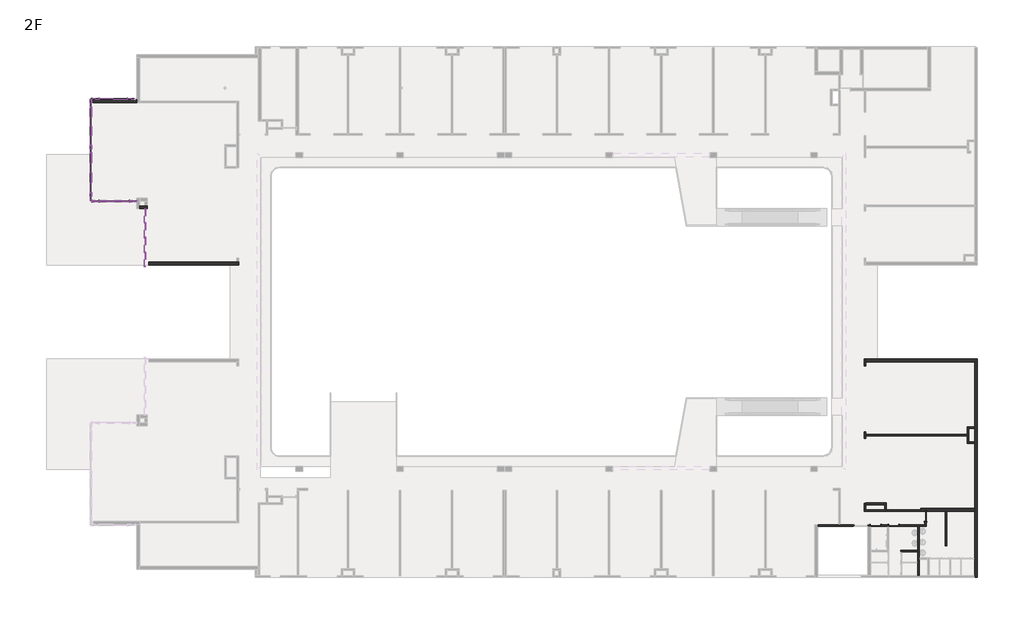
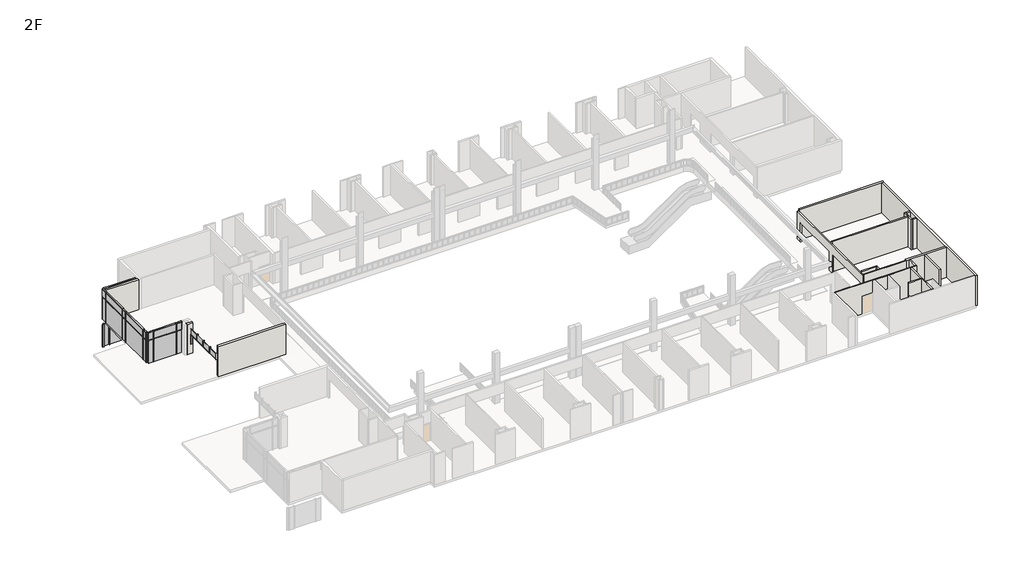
# One storey, part 3 of 6: 47 members, 23 plates, 19 walls, 3 doors.
"""IFC4 building model written with IfcOpenShell, lengths in millimetres."""

from ifc_helpers import new_model, si_unit, frame, origin, place, context, project, spatial, polyline, outline, extrude, faceted_brep, transform, mapped, element, save
from components import m_single_flush_d_900x2150_308bf3ab, m_single_flush_d_900x2150_4cfb9a1c, rectangular_mullion_50_x_150mm_64d38db8, rectangular_mullion_50_x_150mm_68b3818a, rectangular_mullion_50_x_150mm_0240cd64, rectangular_mullion_50_x_150mm_24ac0887, rectangular_mullion_50_x_150mm_86a57cfb, rectangular_mullion_50_x_150mm_567c0dda, rectangular_mullion_50_x_150mm_205d2b36, rectangular_mullion_50_x_150mm_8a594f5d, rectangular_mullion_50_x_150mm_7d543e93, rectangular_mullion_50_x_150mm_fa1304e5, rectangular_mullion_50_x_150mm_32aaa733, rectangular_mullion_50_x_150mm_603ec532, rectangular_mullion_50_x_150mm_6588f46c, rectangular_mullion_50_x_150mm_de4636ea, rectangular_mullion_50_x_150mm_2c7bb3b8, rectangular_mullion_50_x_150mm_bb797b61, rectangular_mullion_50_x_150mm_2578323a, rectangular_mullion_50_x_150mm_0d3281e4, rectangular_mullion_50_x_150mm_457f9466, rectangular_mullion_50_x_150mm_fae7d408, rectangular_mullion_50_x_150mm_eb2312db, rectangular_mullion_50_x_150mm_ab7a2645, rectangular_mullion_50_x_150mm_2a846207, v_corner_mullion_v_mullion_1_cbfc2b9c, v_corner_mullion_v_mullion_1_86484a11, system_panel_glazed_6ff5b55b, system_panel_glazed_bcb18e60, system_panel_glazed_208994a9, system_panel_glazed_f32b0095, system_panel_glazed_1260faee, system_panel_glazed_325272a1, system_panel_glazed_3da0dbdb, system_panel_glazed_5e053889, system_panel_glazed_ecfc68fb, system_panel_glazed_dfb5debe, system_panel_glazed_fdf392ff, system_panel_glazed_78471eb0, system_panel_glazed_db5c68c4, system_panel_glazed_1122010d, system_panel_glazed_49c835b0, system_panel_glazed_89292151, system_panel_glazed_8e8a818c

model = new_model("IFC4")

# Units and contexts
model_context = context("Model", 3, world=origin())
ifc_project = project(units=[si_unit("LENGTHUNIT", "METRE", prefix="MILLI")], contexts=[model_context])

# Site, building, storey
site = spatial("IfcSite", under=ifc_project)
building = spatial("IfcBuilding", under=site)
storey = spatial("IfcBuildingStorey", under=building, Name="2F", Elevation=8100.0)

# Doors
placement = place(None, origin())
m_single_flush_d_900x2150_shape = m_single_flush_d_900x2150_308bf3ab(model_context)
element("IfcDoor", 1, ObjectType="M_Single-Flush : D-900x2150", at=placement, inside=storey, context=model_context, shape_type="MappedRepresentation", body=[
    mapped(m_single_flush_d_900x2150_shape, transform((35557.4134101, -21228.6148653, 8100.0), x_axis=(-1.0, 0.0, 0.0), y_axis=(0.0, -1.0, 0.0), z_axis=(0.0, 0.0, 1.0))),
])
element("IfcDoor", 2, ObjectType="M_Single-Flush : D-900x2150", at=placement, inside=storey, context=model_context, shape_type="MappedRepresentation", body=[
    mapped(m_single_flush_d_900x2150_shape, transform((33942.4134101, -21228.6148653, 8100.0), x_axis=(-1.0, 0.0, 0.0), y_axis=(0.0, -1.0, 0.0), z_axis=(0.0, 0.0, 1.0))),
])
m_single_flush_d_900x2150_2_shape = m_single_flush_d_900x2150_4cfb9a1c(model_context)
element("IfcDoor", 3, ObjectType="M_Single-Flush : D-900x2150", at=placement, inside=storey, context=model_context, shape_type="MappedRepresentation", body=[
    mapped(m_single_flush_d_900x2150_2_shape, transform((38363.4134101, -20422.6148653, 8100.0), x_axis=(0.0, 1.0, 0.0), y_axis=(-1.0, 0.0, 0.0), z_axis=(0.0, 0.0, 1.0))),
])

# Members
rectangular_mullion_50_x_150mm_shape = rectangular_mullion_50_x_150mm_64d38db8(model_context)
element("IfcMember", 4, ObjectType="Rectangular Mullion : 50 x 150mm", at=placement, inside=storey, context=model_context, shape_type="MappedRepresentation", body=[
    mapped(rectangular_mullion_50_x_150mm_shape, transform((-35512.5865899, 16597.3851347, 11950.0), x_axis=(0.0, 0.0, 1.0), y_axis=(0.0, 1.0, 0.0), z_axis=(-1.0, 0.0, 0.0))),
])
element("IfcMember", 5, ObjectType="Rectangular Mullion : 50 x 150mm", at=placement, inside=storey, context=model_context, shape_type="MappedRepresentation", body=[
    mapped(rectangular_mullion_50_x_150mm_shape, transform((-35612.5865899, 7652.3851348, 11950.0), x_axis=(0.0, 0.0, 1.0), y_axis=(-1.0, 0.0, 0.0), z_axis=(0.0, -1.0, 0.0))),
])
element("IfcMember", 6, ObjectType="Rectangular Mullion : 50 x 150mm", at=placement, inside=storey, context=model_context, shape_type="MappedRepresentation", body=[
    mapped(rectangular_mullion_50_x_150mm_shape, transform((-35512.5865899, 7552.3851348, 11950.0), x_axis=(0.0, 0.0, 1.0), y_axis=(0.0, 1.0, 0.0), z_axis=(-1.0, 0.0, 0.0))),
])
rectangular_mullion_50_x_150mm_2_shape = rectangular_mullion_50_x_150mm_68b3818a(model_context)
element("IfcMember", 7, ObjectType="Rectangular Mullion : 50 x 150mm", at=placement, inside=storey, context=model_context, shape_type="MappedRepresentation", body=[
    mapped(rectangular_mullion_50_x_150mm_2_shape, transform((-35512.5865899, 7552.3851348, 10975.0), x_axis=(0.0, 0.0, 1.0), y_axis=(0.0, 1.0, 0.0), z_axis=(-1.0, 0.0, 0.0))),
])
element("IfcMember", 8, ObjectType="Rectangular Mullion : 50 x 150mm", at=placement, inside=storey, context=model_context, shape_type="MappedRepresentation", body=[
    mapped(rectangular_mullion_50_x_150mm_shape, transform((-32337.5865899, 16597.3851347, 11950.0), x_axis=(0.0, 0.0, 1.0), y_axis=(0.0, 1.0, 0.0), z_axis=(-1.0, 0.0, 0.0))),
])
element("IfcMember", 9, ObjectType="Rectangular Mullion : 50 x 150mm", at=placement, inside=storey, context=model_context, shape_type="MappedRepresentation", body=[
    mapped(rectangular_mullion_50_x_150mm_shape, transform((-35612.5865899, 11847.3851347, 11950.0), x_axis=(0.0, 0.0, 1.0), y_axis=(-1.0, 0.0, 0.0), z_axis=(0.0, -1.0, 0.0))),
])
element("IfcMember", 10, ObjectType="Rectangular Mullion : 50 x 150mm", at=placement, inside=storey, context=model_context, shape_type="MappedRepresentation", body=[
    mapped(rectangular_mullion_50_x_150mm_2_shape, transform((-35612.5865899, 11847.3851347, 10975.0), x_axis=(0.0, 0.0, 1.0), y_axis=(-1.0, 0.0, 0.0), z_axis=(0.0, -1.0, 0.0))),
])
element("IfcMember", 11, ObjectType="Rectangular Mullion : 50 x 150mm", at=placement, inside=storey, context=model_context, shape_type="MappedRepresentation", body=[
    mapped(rectangular_mullion_50_x_150mm_2_shape, transform((-35612.5865899, 7652.3851348, 10975.0), x_axis=(0.0, 0.0, 1.0), y_axis=(-1.0, 0.0, 0.0), z_axis=(0.0, -1.0, 0.0))),
])
rectangular_mullion_50_x_150mm_3_shape = rectangular_mullion_50_x_150mm_0240cd64(model_context)
element("IfcMember", 12, ObjectType="Rectangular Mullion : 50 x 150mm", at=placement, inside=storey, context=model_context, shape_type="MappedRepresentation", body=[
    mapped(rectangular_mullion_50_x_150mm_3_shape, transform((-34862.5865899, 16597.3851347, 11950.0), x_axis=(0.0, 0.0, 1.0), y_axis=(0.0, 1.0, 0.0), z_axis=(-1.0, 0.0, 0.0))),
])
rectangular_mullion_50_x_150mm_4_shape = rectangular_mullion_50_x_150mm_24ac0887(model_context)
element("IfcMember", 13, ObjectType="Rectangular Mullion : 50 x 150mm", at=placement, inside=storey, context=model_context, shape_type="MappedRepresentation", body=[
    mapped(rectangular_mullion_50_x_150mm_4_shape, transform((-35612.5865899, 12497.3851347, 11950.0), x_axis=(0.0, 0.0, 1.0), y_axis=(-1.0, 0.0, 0.0), z_axis=(0.0, -1.0, 0.0))),
])
rectangular_mullion_50_x_150mm_5_shape = rectangular_mullion_50_x_150mm_86a57cfb(model_context)
element("IfcMember", 14, ObjectType="Rectangular Mullion : 50 x 150mm", at=placement, inside=storey, context=model_context, shape_type="MappedRepresentation", body=[
    mapped(rectangular_mullion_50_x_150mm_5_shape, transform((-35612.5865899, 12497.3851347, 10975.0), x_axis=(0.0, 0.0, 1.0), y_axis=(-1.0, 0.0, 0.0), z_axis=(0.0, -1.0, 0.0))),
])
rectangular_mullion_50_x_150mm_6_shape = rectangular_mullion_50_x_150mm_567c0dda(model_context)
element("IfcMember", 15, ObjectType="Rectangular Mullion : 50 x 150mm", at=placement, inside=storey, context=model_context, shape_type="MappedRepresentation", body=[
    mapped(rectangular_mullion_50_x_150mm_6_shape, transform((-34887.5865899, 16597.3851347, 4750.0), x_axis=(-1.0, 0.0, 0.0), y_axis=(0.0, 1.0, 0.0), z_axis=(0.0, 0.0, -1.0))),
])
element("IfcMember", 16, ObjectType="Rectangular Mullion : 50 x 150mm", at=placement, inside=storey, context=model_context, shape_type="MappedRepresentation", body=[
    mapped(rectangular_mullion_50_x_150mm_6_shape, transform((-32362.5865899, 16597.3851347, 4750.0), x_axis=(-1.0, 0.0, 0.0), y_axis=(0.0, 1.0, 0.0), z_axis=(0.0, 0.0, -1.0))),
])
element("IfcMember", 17, ObjectType="Rectangular Mullion : 50 x 150mm", at=placement, inside=storey, context=model_context, shape_type="MappedRepresentation", body=[
    mapped(rectangular_mullion_50_x_150mm_6_shape, transform((-35612.5865899, 15872.3851347, 8200.0), x_axis=(0.0, -1.0, 0.0), y_axis=(-1.0, 0.0, 0.0), z_axis=(0.0, 0.0, -1.0))),
])
element("IfcMember", 18, ObjectType="Rectangular Mullion : 50 x 150mm", at=placement, inside=storey, context=model_context, shape_type="MappedRepresentation", body=[
    mapped(rectangular_mullion_50_x_150mm_6_shape, transform((-35612.5865899, 8277.3851348, 8200.0), x_axis=(0.0, -1.0, 0.0), y_axis=(-1.0, 0.0, 0.0), z_axis=(0.0, 0.0, -1.0))),
])
element("IfcMember", 19, ObjectType="Rectangular Mullion : 50 x 150mm", at=placement, inside=storey, context=model_context, shape_type="MappedRepresentation", body=[
    mapped(rectangular_mullion_50_x_150mm_6_shape, transform((-35612.5865899, 11822.3851347, 8200.0), x_axis=(0.0, -1.0, 0.0), y_axis=(-1.0, 0.0, 0.0), z_axis=(0.0, 0.0, -1.0))),
])
element("IfcMember", 20, ObjectType="Rectangular Mullion : 50 x 150mm", at=placement, inside=storey, context=model_context, shape_type="MappedRepresentation", body=[
    mapped(rectangular_mullion_50_x_150mm_6_shape, transform((-35612.5865899, 12472.3851347, 8200.0), x_axis=(0.0, -1.0, 0.0), y_axis=(-1.0, 0.0, 0.0), z_axis=(0.0, 0.0, -1.0))),
])
rectangular_mullion_50_x_150mm_7_shape = rectangular_mullion_50_x_150mm_205d2b36(model_context)
element("IfcMember", 21, ObjectType="Rectangular Mullion : 50 x 150mm", at=placement, inside=storey, context=model_context, shape_type="MappedRepresentation", body=[
    mapped(rectangular_mullion_50_x_150mm_7_shape, transform((-35612.5865899, 15897.3851347, 11950.0), x_axis=(0.0, 0.0, 1.0), y_axis=(-1.0, 0.0, 0.0), z_axis=(0.0, -1.0, 0.0))),
])
rectangular_mullion_50_x_150mm_8_shape = rectangular_mullion_50_x_150mm_8a594f5d(model_context)
element("IfcMember", 22, ObjectType="Rectangular Mullion : 50 x 150mm", at=placement, inside=storey, context=model_context, shape_type="MappedRepresentation", body=[
    mapped(rectangular_mullion_50_x_150mm_8_shape, transform((-35612.5865899, 8302.3851348, 11950.0), x_axis=(0.0, 0.0, 1.0), y_axis=(-1.0, 0.0, 0.0), z_axis=(0.0, -1.0, 0.0))),
])
rectangular_mullion_50_x_150mm_9_shape = rectangular_mullion_50_x_150mm_7d543e93(model_context)
element("IfcMember", 23, ObjectType="Rectangular Mullion : 50 x 150mm", at=placement, inside=storey, context=model_context, shape_type="MappedRepresentation", body=[
    mapped(rectangular_mullion_50_x_150mm_9_shape, transform((-35612.5865899, 15897.3851347, 10975.0), x_axis=(0.0, 0.0, 1.0), y_axis=(-1.0, 0.0, 0.0), z_axis=(0.0, -1.0, 0.0))),
])
rectangular_mullion_50_x_150mm_10_shape = rectangular_mullion_50_x_150mm_fa1304e5(model_context)
element("IfcMember", 24, ObjectType="Rectangular Mullion : 50 x 150mm", at=placement, inside=storey, context=model_context, shape_type="MappedRepresentation", body=[
    mapped(rectangular_mullion_50_x_150mm_10_shape, transform((-35612.5865899, 8302.3851348, 10975.0), x_axis=(0.0, 0.0, 1.0), y_axis=(-1.0, 0.0, 0.0), z_axis=(0.0, -1.0, 0.0))),
])
rectangular_mullion_50_x_150mm_11_shape = rectangular_mullion_50_x_150mm_32aaa733(model_context)
element("IfcMember", 25, ObjectType="Rectangular Mullion : 50 x 150mm", at=placement, inside=storey, context=model_context, shape_type="MappedRepresentation", body=[
    mapped(rectangular_mullion_50_x_150mm_11_shape, transform((-35612.5865899, 16597.3851347, 11000.0), x_axis=(0.0, 1.0, 0.0), y_axis=(-1.0, 0.0, 0.0), z_axis=(0.0, 0.0, 1.0))),
])
rectangular_mullion_50_x_150mm_12_shape = rectangular_mullion_50_x_150mm_603ec532(model_context)
element("IfcMember", 26, ObjectType="Rectangular Mullion : 50 x 150mm", at=placement, inside=storey, context=model_context, shape_type="MappedRepresentation", body=[
    mapped(rectangular_mullion_50_x_150mm_12_shape, transform((-34887.5865899, 7552.3851348, 8100.0), x_axis=(-1.0, 0.0, 0.0), y_axis=(0.0, 1.0, 0.0), z_axis=(0.0, 0.0, -1.0))),
])
element("IfcMember", 27, ObjectType="Rectangular Mullion : 50 x 150mm", at=placement, inside=storey, context=model_context, shape_type="MappedRepresentation", body=[
    mapped(rectangular_mullion_50_x_150mm_12_shape, transform((-32212.5865899, 7552.3851348, 8100.0), x_axis=(-1.0, 0.0, 0.0), y_axis=(0.0, 1.0, 0.0), z_axis=(0.0, 0.0, -1.0))),
])
rectangular_mullion_50_x_150mm_13_shape = rectangular_mullion_50_x_150mm_6588f46c(model_context)
element("IfcMember", 28, ObjectType="Rectangular Mullion : 50 x 150mm", at=placement, inside=storey, context=model_context, shape_type="MappedRepresentation", body=[
    mapped(rectangular_mullion_50_x_150mm_13_shape, transform((-30812.5865899, 6875.8851348, 10500.0), x_axis=(0.0, 1.0, 0.0), y_axis=(-1.0, 0.0, 0.0), z_axis=(0.0, 0.0, 1.0))),
])
rectangular_mullion_50_x_150mm_14_shape = rectangular_mullion_50_x_150mm_de4636ea(model_context)
element("IfcMember", 29, ObjectType="Rectangular Mullion : 50 x 150mm", at=placement, inside=storey, context=model_context, shape_type="MappedRepresentation", body=[
    mapped(rectangular_mullion_50_x_150mm_14_shape, transform((-34862.5865899, 7552.3851348, 11950.0), x_axis=(0.0, 0.0, 1.0), y_axis=(0.0, 1.0, 0.0), z_axis=(-1.0, 0.0, 0.0))),
])
rectangular_mullion_50_x_150mm_15_shape = rectangular_mullion_50_x_150mm_2c7bb3b8(model_context)
element("IfcMember", 30, ObjectType="Rectangular Mullion : 50 x 150mm", at=placement, inside=storey, context=model_context, shape_type="MappedRepresentation", body=[
    mapped(rectangular_mullion_50_x_150mm_15_shape, transform((-34862.5865899, 7552.3851348, 10975.0), x_axis=(0.0, 0.0, 1.0), y_axis=(0.0, 1.0, 0.0), z_axis=(-1.0, 0.0, 0.0))),
])
rectangular_mullion_50_x_150mm_16_shape = rectangular_mullion_50_x_150mm_bb797b61(model_context)
element("IfcMember", 31, ObjectType="Rectangular Mullion : 50 x 150mm", at=placement, inside=storey, context=model_context, shape_type="MappedRepresentation", body=[
    mapped(rectangular_mullion_50_x_150mm_16_shape, transform((-34887.5865899, 7552.3851348, 10975.0), x_axis=(-1.0, 0.0, 0.0), y_axis=(0.0, 1.0, 0.0), z_axis=(0.0, 0.0, -1.0))),
])
element("IfcMember", 32, ObjectType="Rectangular Mullion : 50 x 150mm", at=placement, inside=storey, context=model_context, shape_type="MappedRepresentation", body=[
    mapped(rectangular_mullion_50_x_150mm_16_shape, transform((-32212.5865899, 7552.3851348, 10975.0), x_axis=(-1.0, 0.0, 0.0), y_axis=(0.0, 1.0, 0.0), z_axis=(0.0, 0.0, -1.0))),
])
element("IfcMember", 33, ObjectType="Rectangular Mullion : 50 x 150mm", at=placement, inside=storey, context=model_context, shape_type="MappedRepresentation", body=[
    mapped(rectangular_mullion_50_x_150mm_16_shape, transform((-35612.5865899, 15872.3851347, 10975.0), x_axis=(0.0, -1.0, 0.0), y_axis=(-1.0, 0.0, 0.0), z_axis=(0.0, 0.0, -1.0))),
])
element("IfcMember", 34, ObjectType="Rectangular Mullion : 50 x 150mm", at=placement, inside=storey, context=model_context, shape_type="MappedRepresentation", body=[
    mapped(rectangular_mullion_50_x_150mm_16_shape, transform((-35612.5865899, 12472.3851347, 10975.0), x_axis=(0.0, -1.0, 0.0), y_axis=(-1.0, 0.0, 0.0), z_axis=(0.0, 0.0, -1.0))),
])
element("IfcMember", 35, ObjectType="Rectangular Mullion : 50 x 150mm", at=placement, inside=storey, context=model_context, shape_type="MappedRepresentation", body=[
    mapped(rectangular_mullion_50_x_150mm_16_shape, transform((-35612.5865899, 11822.3851347, 10975.0), x_axis=(0.0, -1.0, 0.0), y_axis=(-1.0, 0.0, 0.0), z_axis=(0.0, 0.0, -1.0))),
])
element("IfcMember", 36, ObjectType="Rectangular Mullion : 50 x 150mm", at=placement, inside=storey, context=model_context, shape_type="MappedRepresentation", body=[
    mapped(rectangular_mullion_50_x_150mm_16_shape, transform((-35612.5865899, 8277.3851348, 10975.0), x_axis=(0.0, -1.0, 0.0), y_axis=(-1.0, 0.0, 0.0), z_axis=(0.0, 0.0, -1.0))),
])
rectangular_mullion_50_x_150mm_17_shape = rectangular_mullion_50_x_150mm_2578323a(model_context)
element("IfcMember", 37, ObjectType="Rectangular Mullion : 50 x 150mm", at=placement, inside=storey, context=model_context, shape_type="MappedRepresentation", body=[
    mapped(rectangular_mullion_50_x_150mm_17_shape, transform((-31536.0865899, 7552.3851348, 11950.0), x_axis=(1.0, 0.0, 0.0), y_axis=(0.0, 1.0, 0.0), z_axis=(0.0, 0.0, 1.0))),
])
rectangular_mullion_50_x_150mm_18_shape = rectangular_mullion_50_x_150mm_0d3281e4(model_context)
element("IfcMember", 38, ObjectType="Rectangular Mullion : 50 x 150mm", at=placement, inside=storey, context=model_context, shape_type="MappedRepresentation", body=[
    mapped(rectangular_mullion_50_x_150mm_18_shape, transform((-30812.5865899, 1697.3851347, 10500.0), x_axis=(0.0, -1.0, 0.0), y_axis=(-1.0, 0.0, 0.0), z_axis=(0.0, 0.0, -1.0))),
])
rectangular_mullion_50_x_150mm_19_shape = rectangular_mullion_50_x_150mm_457f9466(model_context)
element("IfcMember", 39, ObjectType="Rectangular Mullion : 50 x 150mm", at=placement, inside=storey, context=model_context, shape_type="MappedRepresentation", body=[
    mapped(rectangular_mullion_50_x_150mm_19_shape, transform((-30812.5865899, 5606.2601348, 10500.0), x_axis=(0.0, -1.0, 0.0), y_axis=(-1.0, 0.0, 0.0), z_axis=(0.0, 0.0, -1.0))),
])
element("IfcMember", 40, ObjectType="Rectangular Mullion : 50 x 150mm", at=placement, inside=storey, context=model_context, shape_type="MappedRepresentation", body=[
    mapped(rectangular_mullion_50_x_150mm_19_shape, transform((-30812.5865899, 4311.6351348, 10500.0), x_axis=(0.0, -1.0, 0.0), y_axis=(-1.0, 0.0, 0.0), z_axis=(0.0, 0.0, -1.0))),
])
element("IfcMember", 41, ObjectType="Rectangular Mullion : 50 x 150mm", at=placement, inside=storey, context=model_context, shape_type="MappedRepresentation", body=[
    mapped(rectangular_mullion_50_x_150mm_19_shape, transform((-30812.5865899, 3017.0101347, 10500.0), x_axis=(0.0, -1.0, 0.0), y_axis=(-1.0, 0.0, 0.0), z_axis=(0.0, 0.0, -1.0))),
])
rectangular_mullion_50_x_150mm_20_shape = rectangular_mullion_50_x_150mm_fae7d408(model_context)
element("IfcMember", 42, ObjectType="Rectangular Mullion : 50 x 150mm", at=placement, inside=storey, context=model_context, shape_type="MappedRepresentation", body=[
    mapped(rectangular_mullion_50_x_150mm_20_shape, transform((-32187.5865899, 7552.3851348, 10975.0), x_axis=(0.0, 0.0, 1.0), y_axis=(0.0, 1.0, 0.0), z_axis=(-1.0, 0.0, 0.0))),
])
rectangular_mullion_50_x_150mm_21_shape = rectangular_mullion_50_x_150mm_eb2312db(model_context)
element("IfcMember", 43, ObjectType="Rectangular Mullion : 50 x 150mm", at=placement, inside=storey, context=model_context, shape_type="MappedRepresentation", body=[
    mapped(rectangular_mullion_50_x_150mm_21_shape, transform((-32187.5865899, 7552.3851348, 11950.0), x_axis=(0.0, 0.0, 1.0), y_axis=(0.0, 1.0, 0.0), z_axis=(-1.0, 0.0, 0.0))),
])
rectangular_mullion_50_x_150mm_22_shape = rectangular_mullion_50_x_150mm_ab7a2645(model_context)
element("IfcMember", 44, ObjectType="Rectangular Mullion : 50 x 150mm", at=placement, inside=storey, context=model_context, shape_type="MappedRepresentation", body=[
    mapped(rectangular_mullion_50_x_150mm_22_shape, transform((-30812.5865899, 5631.2601348, 10500.0), x_axis=(0.0, 0.0, 1.0), y_axis=(-1.0, 0.0, 0.0), z_axis=(0.0, -1.0, 0.0))),
])
rectangular_mullion_50_x_150mm_23_shape = rectangular_mullion_50_x_150mm_2a846207(model_context)
element("IfcMember", 45, ObjectType="Rectangular Mullion : 50 x 150mm", at=placement, inside=storey, context=model_context, shape_type="MappedRepresentation", body=[
    mapped(rectangular_mullion_50_x_150mm_23_shape, transform((-30812.5865899, 4336.6351348, 10500.0), x_axis=(0.0, 0.0, 1.0), y_axis=(-1.0, 0.0, 0.0), z_axis=(0.0, -1.0, 0.0))),
])
element("IfcMember", 46, ObjectType="Rectangular Mullion : 50 x 150mm", at=placement, inside=storey, context=model_context, shape_type="MappedRepresentation", body=[
    mapped(rectangular_mullion_50_x_150mm_23_shape, transform((-30812.5865899, 3042.0101347, 10500.0), x_axis=(0.0, 0.0, 1.0), y_axis=(-1.0, 0.0, 0.0), z_axis=(0.0, -1.0, 0.0))),
])
element("IfcMember", 47, ObjectType="Rectangular Mullion : 50 x 150mm", at=placement, inside=storey, context=model_context, shape_type="MappedRepresentation", body=[
    mapped(rectangular_mullion_50_x_150mm_23_shape, transform((-30812.5865899, 1747.3851347, 10500.0), x_axis=(0.0, 0.0, 1.0), y_axis=(-1.0, 0.0, 0.0), z_axis=(0.0, -1.0, 0.0))),
])
v_corner_mullion_v_mullion_1_shape = v_corner_mullion_v_mullion_1_cbfc2b9c(model_context)
element("IfcMember", 48, ObjectType="V Corner Mullion : V Mullion 1", at=placement, inside=storey, context=model_context, shape_type="MappedRepresentation", body=[
    mapped(v_corner_mullion_v_mullion_1_shape, transform((-35612.5865899, 16597.3851347, 4750.0), x_axis=(-1.0, 0.0, 0.0), y_axis=(0.0, 1.0, 0.0), z_axis=(0.0, 0.0, -1.0))),
])
element("IfcMember", 49, ObjectType="V Corner Mullion : V Mullion 1", at=placement, inside=storey, context=model_context, shape_type="MappedRepresentation", body=[
    mapped(v_corner_mullion_v_mullion_1_shape, transform((-35612.5865899, 7552.3851348, 8200.0), x_axis=(0.0, -1.0, 0.0), y_axis=(-1.0, 0.0, 0.0), z_axis=(0.0, 0.0, -1.0))),
])
v_corner_mullion_v_mullion_1_2_shape = v_corner_mullion_v_mullion_1_86484a11(model_context)
element("IfcMember", 50, ObjectType="V Corner Mullion : V Mullion 1", at=placement, inside=storey, context=model_context, shape_type="MappedRepresentation", body=[
    mapped(v_corner_mullion_v_mullion_1_2_shape, transform((-35612.5865899, 7552.3851348, 10975.0), x_axis=(0.0, -1.0, 0.0), y_axis=(-1.0, 0.0, 0.0), z_axis=(0.0, 0.0, -1.0))),
])

# Plates
system_panel_glazed_shape = system_panel_glazed_6ff5b55b(model_context)
element("IfcPlate", 51, ObjectType="System Panel : Glazed", at=placement, inside=storey, context=model_context, shape_type="MappedRepresentation", body=[
    mapped(system_panel_glazed_shape, transform((-32037.5865899, 16597.3851347, 4750.0), x_axis=(-1.0, 0.0, 0.0), y_axis=(0.0, -1.0, 0.0), z_axis=(0.0, 0.0, 1.0))),
])
element("IfcPlate", 52, ObjectType="System Panel : Glazed", at=placement, inside=storey, context=model_context, shape_type="MappedRepresentation", body=[
    mapped(system_panel_glazed_shape, transform((-35212.5865899, 16597.3851347, 4750.0), x_axis=(-1.0, 0.0, 0.0), y_axis=(0.0, -1.0, 0.0), z_axis=(0.0, 0.0, 1.0))),
])
element("IfcPlate", 53, ObjectType="System Panel : Glazed", at=placement, inside=storey, context=model_context, shape_type="MappedRepresentation", body=[
    mapped(system_panel_glazed_shape, transform((-35612.5865899, 7952.3851348, 8200.0), x_axis=(0.0, -1.0, 0.0), y_axis=(1.0, 0.0, 0.0), z_axis=(0.0, 0.0, 1.0))),
])
element("IfcPlate", 54, ObjectType="System Panel : Glazed", at=placement, inside=storey, context=model_context, shape_type="MappedRepresentation", body=[
    mapped(system_panel_glazed_shape, transform((-35612.5865899, 12147.3851347, 8200.0), x_axis=(0.0, -1.0, 0.0), y_axis=(1.0, 0.0, 0.0), z_axis=(0.0, 0.0, 1.0))),
])
system_panel_glazed_2_shape = system_panel_glazed_bcb18e60(model_context)
element("IfcPlate", 55, ObjectType="System Panel : Glazed", at=placement, inside=storey, context=model_context, shape_type="MappedRepresentation", body=[
    mapped(system_panel_glazed_2_shape, transform((-33625.0865899, 16597.3851347, 4750.0), x_axis=(-1.0, 0.0, 0.0), y_axis=(0.0, -1.0, 0.0), z_axis=(0.0, 0.0, 1.0))),
])
system_panel_glazed_3_shape = system_panel_glazed_208994a9(model_context)
element("IfcPlate", 56, ObjectType="System Panel : Glazed", at=placement, inside=storey, context=model_context, shape_type="MappedRepresentation", body=[
    mapped(system_panel_glazed_3_shape, transform((-35612.5865899, 14172.3851347, 8200.0), x_axis=(0.0, -1.0, 0.0), y_axis=(1.0, 0.0, 0.0), z_axis=(0.0, 0.0, 1.0))),
])
system_panel_glazed_4_shape = system_panel_glazed_f32b0095(model_context)
element("IfcPlate", 57, ObjectType="System Panel : Glazed", at=placement, inside=storey, context=model_context, shape_type="MappedRepresentation", body=[
    mapped(system_panel_glazed_4_shape, transform((-35612.5865899, 16222.3851347, 8200.0), x_axis=(0.0, -1.0, 0.0), y_axis=(1.0, 0.0, 0.0), z_axis=(0.0, 0.0, 1.0))),
])
system_panel_glazed_5_shape = system_panel_glazed_1260faee(model_context)
element("IfcPlate", 58, ObjectType="System Panel : Glazed", at=placement, inside=storey, context=model_context, shape_type="MappedRepresentation", body=[
    mapped(system_panel_glazed_5_shape, transform((-35612.5865899, 10049.8851348, 8200.0), x_axis=(0.0, -1.0, 0.0), y_axis=(1.0, 0.0, 0.0), z_axis=(0.0, 0.0, 1.0))),
])
system_panel_glazed_6_shape = system_panel_glazed_325272a1(model_context)
element("IfcPlate", 59, ObjectType="System Panel : Glazed", at=placement, inside=storey, context=model_context, shape_type="MappedRepresentation", body=[
    mapped(system_panel_glazed_6_shape, transform((-35212.5865899, 7552.3851348, 8100.0), x_axis=(-1.0, 0.0, 0.0), y_axis=(0.0, -1.0, 0.0), z_axis=(0.0, 0.0, 1.0))),
])
system_panel_glazed_7_shape = system_panel_glazed_3da0dbdb(model_context)
element("IfcPlate", 60, ObjectType="System Panel : Glazed", at=placement, inside=storey, context=model_context, shape_type="MappedRepresentation", body=[
    mapped(system_panel_glazed_7_shape, transform((-33550.0865899, 7552.3851348, 8100.0), x_axis=(-1.0, 0.0, 0.0), y_axis=(0.0, -1.0, 0.0), z_axis=(0.0, 0.0, 1.0))),
])
system_panel_glazed_8_shape = system_panel_glazed_5e053889(model_context)
element("IfcPlate", 61, ObjectType="System Panel : Glazed", at=placement, inside=storey, context=model_context, shape_type="MappedRepresentation", body=[
    mapped(system_panel_glazed_8_shape, transform((-35212.5865899, 7552.3851348, 11000.0), x_axis=(-1.0, 0.0, 0.0), y_axis=(0.0, -1.0, 0.0), z_axis=(0.0, 0.0, 1.0))),
])
system_panel_glazed_9_shape = system_panel_glazed_ecfc68fb(model_context)
element("IfcPlate", 62, ObjectType="System Panel : Glazed", at=placement, inside=storey, context=model_context, shape_type="MappedRepresentation", body=[
    mapped(system_panel_glazed_9_shape, transform((-35612.5865899, 12147.3851347, 11000.0), x_axis=(0.0, -1.0, 0.0), y_axis=(1.0, 0.0, 0.0), z_axis=(0.0, 0.0, 1.0))),
])
element("IfcPlate", 63, ObjectType="System Panel : Glazed", at=placement, inside=storey, context=model_context, shape_type="MappedRepresentation", body=[
    mapped(system_panel_glazed_9_shape, transform((-35612.5865899, 7952.3851348, 11000.0), x_axis=(0.0, -1.0, 0.0), y_axis=(1.0, 0.0, 0.0), z_axis=(0.0, 0.0, 1.0))),
])
system_panel_glazed_10_shape = system_panel_glazed_dfb5debe(model_context)
element("IfcPlate", 64, ObjectType="System Panel : Glazed", at=placement, inside=storey, context=model_context, shape_type="MappedRepresentation", body=[
    mapped(system_panel_glazed_10_shape, transform((-35612.5865899, 16247.3851347, 11000.0), x_axis=(0.0, -1.0, 0.0), y_axis=(1.0, 0.0, 0.0), z_axis=(0.0, 0.0, 1.0))),
])
system_panel_glazed_11_shape = system_panel_glazed_fdf392ff(model_context)
element("IfcPlate", 65, ObjectType="System Panel : Glazed", at=placement, inside=storey, context=model_context, shape_type="MappedRepresentation", body=[
    mapped(system_panel_glazed_11_shape, transform((-35612.5865899, 14172.3851347, 11000.0), x_axis=(0.0, -1.0, 0.0), y_axis=(1.0, 0.0, 0.0), z_axis=(0.0, 0.0, 1.0))),
])
system_panel_glazed_12_shape = system_panel_glazed_78471eb0(model_context)
element("IfcPlate", 66, ObjectType="System Panel : Glazed", at=placement, inside=storey, context=model_context, shape_type="MappedRepresentation", body=[
    mapped(system_panel_glazed_12_shape, transform((-35612.5865899, 10049.8851348, 11000.0), x_axis=(0.0, -1.0, 0.0), y_axis=(1.0, 0.0, 0.0), z_axis=(0.0, 0.0, 1.0))),
])
system_panel_glazed_13_shape = system_panel_glazed_db5c68c4(model_context)
element("IfcPlate", 67, ObjectType="System Panel : Glazed", at=placement, inside=storey, context=model_context, shape_type="MappedRepresentation", body=[
    mapped(system_panel_glazed_13_shape, transform((-33550.0865899, 7552.3851348, 11000.0), x_axis=(-1.0, 0.0, 0.0), y_axis=(0.0, -1.0, 0.0), z_axis=(0.0, 0.0, 1.0))),
])
system_panel_glazed_14_shape = system_panel_glazed_1122010d(model_context)
element("IfcPlate", 68, ObjectType="System Panel : Glazed", at=placement, inside=storey, context=model_context, shape_type="MappedRepresentation", body=[
    mapped(system_panel_glazed_14_shape, transform((-31886.8365899, 7552.3851348, 8100.0), x_axis=(-1.0, 0.0, 0.0), y_axis=(0.0, -1.0, 0.0), z_axis=(0.0, 0.0, 1.0))),
])
system_panel_glazed_15_shape = system_panel_glazed_49c835b0(model_context)
element("IfcPlate", 69, ObjectType="System Panel : Glazed", at=placement, inside=storey, context=model_context, shape_type="MappedRepresentation", body=[
    mapped(system_panel_glazed_15_shape, transform((-31886.8365899, 7552.3851348, 11000.0), x_axis=(-1.0, 0.0, 0.0), y_axis=(0.0, -1.0, 0.0), z_axis=(0.0, 0.0, 1.0))),
])
system_panel_glazed_16_shape = system_panel_glazed_89292151(model_context)
element("IfcPlate", 70, ObjectType="System Panel : Glazed", at=placement, inside=storey, context=model_context, shape_type="MappedRepresentation", body=[
    mapped(system_panel_glazed_16_shape, transform((-30812.5865899, 6228.5726348, 10525.0), x_axis=(0.0, -1.0, 0.0), y_axis=(1.0, 0.0, 0.0), z_axis=(0.0, 0.0, 1.0))),
])
system_panel_glazed_17_shape = system_panel_glazed_8e8a818c(model_context)
element("IfcPlate", 71, ObjectType="System Panel : Glazed", at=placement, inside=storey, context=model_context, shape_type="MappedRepresentation", body=[
    mapped(system_panel_glazed_17_shape, transform((-30812.5865899, 4958.9476348, 10525.0), x_axis=(0.0, -1.0, 0.0), y_axis=(1.0, 0.0, 0.0), z_axis=(0.0, 0.0, 1.0))),
])
element("IfcPlate", 72, ObjectType="System Panel : Glazed", at=placement, inside=storey, context=model_context, shape_type="MappedRepresentation", body=[
    mapped(system_panel_glazed_17_shape, transform((-30812.5865899, 3664.3226348, 10525.0), x_axis=(0.0, -1.0, 0.0), y_axis=(1.0, 0.0, 0.0), z_axis=(0.0, 0.0, 1.0))),
])
element("IfcPlate", 73, ObjectType="System Panel : Glazed", at=placement, inside=storey, context=model_context, shape_type="MappedRepresentation", body=[
    mapped(system_panel_glazed_17_shape, transform((-30812.5865899, 2369.6976347, 10525.0), x_axis=(0.0, -1.0, 0.0), y_axis=(1.0, 0.0, 0.0), z_axis=(0.0, 0.0, 1.0))),
])

# Walls
element("IfcWall", 74, ObjectType="wall-115", at=placement, inside=storey, context=model_context, shape_type="Brep", body=[
    faceted_brep([(38434.4134101, -21299.6148653, 11850.0), (37834.4134101, -21299.6148653, 11850.0), (37692.4134101, -21299.6148653, 11850.0), (35119.4134101, -21299.6148653, 11850.0), (34977.4134101, -21299.6148653, 11850.0), (33504.4134101, -21299.6148653, 11850.0), (33247.4134101, -21299.6148653, 11850.0), (28799.4134101, -21299.6148653, 11850.0), (28799.4134101, -21299.6148653, 8100.0), (32062.4134101, -21299.6148653, 8100.0), (32062.4134101, -21299.6148653, 10250.0), (33262.4134101, -21299.6148653, 10250.0), (33262.4134101, -21299.6148653, 8100.0), (33492.4134101, -21299.6148653, 8100.0), (33492.4134101, -21299.6148653, 10250.0), (34392.4134101, -21299.6148653, 10250.0), (34392.4134101, -21299.6148653, 8100.0), (34977.4134101, -21299.6148653, 8100.0), (35107.4134101, -21299.6148653, 8100.0), (35107.4134101, -21299.6148653, 10250.0), (36007.4134101, -21299.6148653, 10250.0), (36007.4134101, -21299.6148653, 8100.0), (37692.4134101, -21299.6148653, 8100.0), (37834.4134101, -21299.6148653, 8100.0), (38434.4134101, -21299.6148653, 8100.0), (28799.4134101, -21157.6148653, 11850.0), (30657.4134101, -21157.6148653, 11850.0), (30799.4134101, -21157.6148653, 11850.0), (38292.4134101, -21157.6148653, 11850.0), (38434.4134101, -21157.6148653, 11850.0), (38434.4134101, -21157.6148653, 8100.0), (38292.4134101, -21157.6148653, 8100.0), (36007.4134101, -21157.6148653, 8100.0), (36007.4134101, -21157.6148653, 10250.0), (35107.4134101, -21157.6148653, 10250.0), (35107.4134101, -21157.6148653, 8100.0), (34392.4134101, -21157.6148653, 8100.0), (34392.4134101, -21157.6148653, 10250.0), (33492.4134101, -21157.6148653, 10250.0), (33492.4134101, -21157.6148653, 8100.0), (33262.4134101, -21157.6148653, 8100.0), (33262.4134101, -21157.6148653, 10250.0), (32062.4134101, -21157.6148653, 10250.0), (32062.4134101, -21157.6148653, 8100.0), (30799.4134101, -21157.6148653, 8100.0), (30657.4134101, -21157.6148653, 8100.0), (28799.4134101, -21157.6148653, 8100.0)], [[[0, 1, 2, 3, 4, 5, 6, 7, 8, 9, 10, 11, 12, 13, 14, 15, 16, 17, 18, 19, 20, 21, 22, 23, 24]], [[25, 26, 27, 28, 29, 30, 31, 32, 33, 34, 35, 36, 37, 38, 39, 40, 41, 42, 43, 44, 45, 46]], [[30, 24, 23, 22, 21, 32, 31]], [[8, 46, 45, 44, 43, 9]], [[35, 18, 17, 16, 36]], [[39, 13, 12, 40]], [[7, 6, 5, 4, 3, 2, 1, 0, 29, 28, 27, 26, 25]], [[0, 24, 30, 29]], [[8, 7, 25, 46]], [[19, 18, 35, 34]], [[20, 19, 34, 33]], [[21, 20, 33, 32]], [[14, 13, 39, 38]], [[15, 14, 38, 37]], [[16, 15, 37, 36]], [[11, 41, 40, 12]], [[41, 11, 10, 42]], [[42, 10, 9, 43]]]),
])
element("IfcWall", 75, ObjectType="wall-115", at=placement, inside=storey, context=model_context, shape_type="Brep", body=[
    faceted_brep([(36192.4134101, -23564.6148653, 8100.0), (36242.4134101, -23564.6148653, 8100.0), (37692.4134101, -23564.6148653, 8100.0), (37692.4134101, -23564.6148653, 11850.0), (36192.4134101, -23564.6148653, 11850.0), (36192.4134101, -23564.6148653, 10250.0), (36192.4134101, -23422.6148653, 8100.0), (36192.4134101, -23422.6148653, 11850.0), (37692.4134101, -23422.6148653, 11850.0), (37692.4134101, -23422.6148653, 8100.0)], [[[0, 1, 2, 3, 4, 5]], [[6, 7, 8, 9]], [[2, 1, 0, 6, 9]], [[4, 3, 8, 7]], [[3, 2, 9, 8]], [[0, 5, 4, 7, 6]]]),
])
element("IfcWall", 76, ObjectType="wall-115", at=placement, inside=storey, context=model_context, shape_type="Brep", body=[
    faceted_brep([(37834.4134101, -25692.6148653, 8100.0), (37834.4134101, -24257.6148653, 8100.0), (37834.4134101, -24115.6148653, 8100.0), (37834.4134101, -21299.6148653, 8100.0), (37834.4134101, -21299.6148653, 11850.0), (37834.4134101, -24115.6148653, 11850.0), (37834.4134101, -24257.6148653, 11850.0), (37834.4134101, -25692.6148653, 11850.0), (37692.4134101, -25692.6148653, 8100.0), (37692.4134101, -25692.6148653, 11850.0), (37692.4134101, -23564.6148653, 11850.0), (37692.4134101, -23422.6148653, 11850.0), (37692.4134101, -21299.6148653, 11850.0), (37692.4134101, -21299.6148653, 8100.0), (37692.4134101, -23422.6148653, 8100.0), (37692.4134101, -23564.6148653, 8100.0), (37692.4134101, -24502.6148653, 8100.0), (37692.4134101, -24552.6148653, 8100.0)], [[[0, 1, 2, 3, 4, 5, 6, 7]], [[8, 9, 10, 11, 12, 13, 14, 15, 16, 17]], [[3, 2, 1, 0, 8, 17, 16, 15, 14, 13]], [[7, 6, 5, 4, 12, 11, 10, 9]], [[4, 3, 13, 12]], [[0, 7, 9, 8]]]),
])
element("IfcWall", 77, ObjectType="wall-115", at=placement, inside=storey, context=model_context, shape_type="Brep", body=[
    faceted_brep([(37962.4134101, -19845.6148653, 8100.0), (34889.4134101, -19845.6148653, 8100.0), (34747.4134101, -19845.6148653, 8100.0), (33089.4134101, -19845.6148653, 8100.0), (32947.4134101, -19845.6148653, 8100.0), (32947.4134101, -19845.6148653, 11575.0), (32947.4134101, -19845.6148653, 11850.0), (34747.4134101, -19845.6148653, 11850.0), (34889.4134101, -19845.6148653, 11850.0), (37962.4134101, -19845.6148653, 11850.0), (37962.4134101, -19987.6148653, 8100.0), (37962.4134101, -19987.6148653, 11850.0), (32947.4134101, -19987.6148653, 11850.0), (32947.4134101, -19987.6148653, 8100.0), (37962.4134101, -19984.6148653, 8100.0), (37962.4134101, -19984.6148653, 11850.0)], [[[0, 1, 2, 3, 4, 5, 6, 7, 8, 9]], [[10, 11, 12, 13]], [[4, 3, 2, 1, 0, 14, 10, 13]], [[9, 8, 7, 6, 12, 11, 15]], [[0, 9, 15, 11, 10, 14]], [[6, 5, 4, 13, 12]]]),
])
element("IfcWall", 78, ObjectType="wall-115", at=placement, inside=storey, context=model_context, shape_type="SweptSolid", body=[
    extrude(outline(polyline([(42055.4134101, -13292.1148653), (33089.4134101, -13292.1148653), (33089.4134101, -13150.1148653), (42055.4134101, -13150.1148653), (42055.4134101, -13292.1148653)])), frame((0.0, 0.0, 8100.0), z_axis=(0.0, 0.0, 1.0), x_axis=(1.0, 0.0, 0.0)), (0.0, 0.0, 1.0), 3750.0),
])
element("IfcWall", 79, ObjectType="wall-115", at=placement, inside=storey, context=model_context, shape_type="Brep", body=[
    faceted_brep([(33089.4134101, -6457.6148653, 8100.0), (33089.4134101, -6457.6148653, 11575.0), (33089.4134101, -19845.6148653, 11575.0), (33089.4134101, -19845.6148653, 8100.0), (33089.4134101, -19387.6148653, 8100.0), (33089.4134101, -19257.6148653, 8100.0), (33089.4134101, -19257.6148653, 10500.0), (33089.4134101, -13522.6148653, 10500.0), (33089.4134101, -13522.6148653, 8100.0), (33089.4134101, -13292.1148653, 8100.0), (33089.4134101, -13150.1148653, 8100.0), (33089.4134101, -12922.6148653, 8100.0), (33089.4134101, -12922.6148653, 10500.0), (33089.4134101, -7072.6148653, 10500.0), (33089.4134101, -7072.6148653, 8100.0), (33089.4134101, -6714.6148653, 8100.0), (32947.4134101, -6457.6148653, 11575.0), (32947.4134101, -6457.6148653, 8100.0), (32947.4134101, -7072.6148653, 8100.0), (32947.4134101, -7072.6148653, 10500.0), (32947.4134101, -12922.6148653, 10500.0), (32947.4134101, -12922.6148653, 8100.0), (32947.4134101, -13522.6148653, 8100.0), (32947.4134101, -13522.6148653, 10500.0), (32947.4134101, -19257.6148653, 10500.0), (32947.4134101, -19257.6148653, 8100.0), (32947.4134101, -19845.6148653, 8100.0), (32947.4134101, -19845.6148653, 11575.0)], [[[0, 1, 2, 3, 4, 5, 6, 7, 8, 9, 10, 11, 12, 13, 14, 15]], [[16, 17, 18, 19, 20, 21, 22, 23, 24, 25, 26, 27]], [[17, 0, 15, 14, 18]], [[3, 26, 25, 5, 4]], [[8, 22, 21, 11, 10, 9]], [[1, 0, 17, 16]], [[3, 2, 27, 26]], [[2, 1, 16, 27]], [[6, 24, 23, 7]], [[7, 23, 22, 8]], [[24, 6, 5, 25]], [[19, 13, 12, 20]], [[20, 12, 11, 21]], [[13, 19, 18, 14]]]),
])
element("IfcWall", 80, ObjectType="wall-115", at=placement, inside=storey, context=model_context, shape_type="Brep", body=[
    faceted_brep([(42055.4134101, -12492.6148653, 8100.0), (42055.4134101, -13150.1148653, 8100.0), (42055.4134101, -13292.1148653, 8100.0), (42055.4134101, -13952.6148653, 8100.0), (42055.4134101, -13952.6148653, 11850.0), (42055.4134101, -13292.1148653, 11850.0), (42055.4134101, -13150.1148653, 11850.0), (42055.4134101, -12492.6148653, 11850.0), (42197.4134101, -12492.6148653, 8100.0), (42197.4134101, -12492.6148653, 11850.0), (42197.4134101, -12634.6148653, 11850.0), (42197.4134101, -13810.6148653, 11850.0), (42197.4134101, -13952.6148653, 11850.0), (42197.4134101, -13952.6148653, 8100.0), (42197.4134101, -13810.6148653, 8100.0), (42197.4134101, -12634.6148653, 8100.0)], [[[0, 1, 2, 3, 4, 5, 6, 7]], [[8, 9, 10, 11, 12, 13, 14, 15]], [[3, 2, 1, 0, 8, 15, 14, 13]], [[7, 6, 5, 4, 12, 11, 10, 9]], [[4, 3, 13, 12]], [[0, 7, 9, 8]]]),
])
element("IfcWall", 81, ObjectType="wall-115", at=placement, inside=storey, context=model_context, shape_type="SweptSolid", body=[
    extrude(outline(polyline([(-21157.6148653, 11850.0), (-19984.6148653, 11850.0), (-19984.6148653, 10250.0), (-20872.6148653, 10250.0), (-20872.6148653, 8100.0), (-21157.6148653, 8100.0), (-21157.6148653, 11850.0)])), frame((38292.4134101, 0.0, 0.0), z_axis=(1.0, 0.0, 0.0), x_axis=(0.0, 1.0, 0.0)), (0.0, 0.0, 1.0), 142.0),
])
element("IfcWall", 82, ObjectType="wall-115", at=placement, inside=storey, context=model_context, shape_type="SweptSolid", body=[
    extrude(outline(polyline([(40244.8019347, -19984.6148653), (40244.8019347, -23027.6148653), (40102.8019347, -23027.6148653), (40102.8019347, -19984.6148653), (40244.8019347, -19984.6148653)])), frame((0.0, 0.0, 8100.0), z_axis=(0.0, 0.0, 1.0), x_axis=(1.0, 0.0, 0.0)), (0.0, 0.0, 1.0), 3750.0),
])
element("IfcWall", 83, ObjectType="wall-115", at=placement, inside=storey, context=model_context, shape_type="Brep", body=[
    faceted_brep([(33089.4134101, -19387.6148653, 8100.0), (34747.4134101, -19387.6148653, 8100.0), (34889.4134101, -19387.6148653, 8100.0), (34889.4134101, -19387.6148653, 11850.0), (34747.4134101, -19387.6148653, 11850.0), (33089.4134101, -19387.6148653, 11850.0), (33089.4134101, -19245.6148653, 8100.0), (33089.4134101, -19245.6148653, 11850.0), (34889.4134101, -19245.6148653, 11850.0), (34889.4134101, -19245.6148653, 8100.0), (33089.4134101, -19257.6148653, 8100.0)], [[[0, 1, 2, 3, 4, 5]], [[6, 7, 8, 9]], [[2, 1, 0, 10, 6, 9]], [[5, 4, 3, 8, 7]], [[3, 2, 9, 8]], [[0, 5, 7, 6, 10]]]),
])
element("IfcWall", 84, ObjectType="wall-115", at=placement, inside=storey, context=model_context, shape_type="SweptSolid", body=[
    extrude(outline(polyline([(34747.4134101, -19845.6148653), (34747.4134101, -19387.6148653), (34889.4134101, -19387.6148653), (34889.4134101, -19845.6148653), (34747.4134101, -19845.6148653)])), frame((0.0, 0.0, 8100.0), z_axis=(0.0, 0.0, 1.0), x_axis=(1.0, 0.0, 0.0)), (0.0, 0.0, 1.0), 3750.0),
])
element("IfcWall", 85, ObjectType="wall-115", at=placement, inside=storey, context=model_context, shape_type="SweptSolid", body=[
    extrude(outline(polyline([(42717.4134101, -12634.6148653), (42197.4134101, -12634.6148653), (42197.4134101, -12492.6148653), (42717.4134101, -12492.6148653), (42717.4134101, -12634.6148653)])), frame((0.0, 0.0, 8100.0), z_axis=(0.0, 0.0, 1.0), x_axis=(1.0, 0.0, 0.0)), (0.0, 0.0, 1.0), 3750.0),
])
element("IfcWall", 86, ObjectType="wall-115", at=placement, inside=storey, context=model_context, shape_type="SweptSolid", body=[
    extrude(outline(polyline([(42197.4134101, -13810.6148653), (42717.4134101, -13810.6148653), (42717.4134101, -13952.6148653), (42197.4134101, -13952.6148653), (42197.4134101, -13810.6148653)])), frame((0.0, 0.0, 8100.0), z_axis=(0.0, 0.0, 1.0), x_axis=(1.0, 0.0, 0.0)), (0.0, 0.0, 1.0), 3750.0),
])
element("IfcWall", 87, ObjectType="wall-230", at=placement, inside=storey, context=model_context, shape_type="Brep", body=[
    faceted_brep([(42717.4134101, -19984.6148653, 11850.0), (40244.8019347, -19984.6148653, 11850.0), (40102.8019347, -19984.6148653, 11850.0), (38434.4134101, -19984.6148653, 11850.0), (38292.4134101, -19984.6148653, 11850.0), (37962.4134101, -19984.6148653, 11850.0), (37962.4134101, -19984.6148653, 8100.0), (38292.4134101, -19984.6148653, 8100.0), (38292.4134101, -19984.6148653, 10250.0), (38434.4134101, -19984.6148653, 10250.0), (38434.4134101, -19984.6148653, 8100.0), (40102.8019347, -19984.6148653, 8100.0), (40244.8019347, -19984.6148653, 8100.0), (42717.4134101, -19984.6148653, 8100.0), (42717.4134101, -19727.6148653, 8100.0), (37962.4134101, -19727.6148653, 8100.0), (37962.4134101, -19727.6148653, 11850.0), (42717.4134101, -19727.6148653, 11850.0), (38434.4134101, -19972.6148653, 8100.0), (38292.4134101, -19972.6148653, 8100.0), (37962.4134101, -19845.6148653, 8100.0), (37962.4134101, -19845.6148653, 11850.0), (38434.4134101, -19972.6148653, 10250.0), (38292.4134101, -19972.6148653, 10250.0)], [[[0, 1, 2, 3, 4, 5, 6, 7, 8, 9, 10, 11, 12, 13]], [[14, 15, 16, 17]], [[15, 14, 13, 12, 11, 10, 18, 19, 7, 6, 20]], [[5, 4, 3, 2, 1, 0, 17, 16, 21]], [[6, 5, 21, 16, 15, 20]], [[0, 13, 14, 17]], [[22, 18, 10, 9]], [[19, 23, 8, 7]], [[18, 22, 23, 19]], [[23, 22, 9, 8]]]),
])
element("IfcWall", 88, ObjectType="wall-230", at=placement, inside=storey, context=model_context, shape_type="Brep", body=[
    faceted_brep([(33089.4134101, -6714.6148653, 8100.0), (42717.4134101, -6714.6148653, 8100.0), (42974.4134101, -6714.6148653, 8100.0), (42974.4134101, -6714.6148653, 11850.0), (42717.4134101, -6714.6148653, 11850.0), (33089.4134101, -6714.6148653, 11850.0), (33089.4134101, -6457.6148653, 8100.0), (33089.4134101, -6457.6148653, 11575.0), (33089.4134101, -6457.6148653, 11850.0), (42974.4134101, -6457.6148653, 11850.0), (42974.4134101, -6457.6148653, 8100.0)], [[[0, 1, 2, 3, 4, 5]], [[6, 7, 8, 9, 10]], [[2, 1, 0, 6, 10]], [[5, 4, 3, 9, 8]], [[0, 5, 8, 7, 6]], [[3, 2, 10, 9]]]),
])
element("IfcWall", 89, ObjectType="wall-230", at=placement, inside=storey, context=model_context, shape_type="SweptSolid", body=[
    extrude(outline(polyline([(-35422.5865899, 16534.3851347), (-31549.5865899, 16534.3851347), (-31549.5865899, 16277.3851347), (-35422.5865899, 16277.3851347), (-35422.5865899, 16534.3851347)])), frame((0.0, 0.0, 8100.0), z_axis=(0.0, 0.0, 1.0), x_axis=(1.0, 0.0, 0.0)), (0.0, 0.0, 1.0), 3750.0),
])
element("IfcWall", 90, ObjectType="wall-230", at=placement, inside=storey, context=model_context, shape_type="Brep", body=[
    faceted_brep([(42974.4134101, -25834.6148653, 8100.0), (42974.4134101, -6714.6148653, 8100.0), (42974.4134101, -6714.6148653, 11850.0), (42974.4134101, -25834.6148653, 11850.0), (42717.4134101, -25834.6148653, 8100.0), (42717.4134101, -25834.6148653, 11850.0), (42717.4134101, -25692.6148653, 11850.0), (42717.4134101, -19984.6148653, 11850.0), (42717.4134101, -19727.6148653, 11850.0), (42717.4134101, -13952.6148653, 11850.0), (42717.4134101, -13810.6148653, 11850.0), (42717.4134101, -12634.6148653, 11850.0), (42717.4134101, -12492.6148653, 11850.0), (42717.4134101, -6714.6148653, 11850.0), (42717.4134101, -6714.6148653, 8100.0), (42717.4134101, -12492.6148653, 8100.0), (42717.4134101, -12634.6148653, 8100.0), (42717.4134101, -13810.6148653, 8100.0), (42717.4134101, -13952.6148653, 8100.0), (42717.4134101, -19727.6148653, 8100.0), (42717.4134101, -19984.6148653, 8100.0), (42717.4134101, -24127.6148653, 8100.0), (42717.4134101, -24177.6148653, 8100.0), (42717.4134101, -25692.6148653, 8100.0)], [[[0, 1, 2, 3]], [[4, 5, 6, 7, 8, 9, 10, 11, 12, 13, 14, 15, 16, 17, 18, 19, 20, 21, 22, 23]], [[1, 0, 4, 23, 22, 21, 20, 19, 18, 17, 16, 15, 14]], [[3, 2, 13, 12, 11, 10, 9, 8, 7, 6, 5]], [[0, 3, 5, 4]], [[2, 1, 14, 13]]]),
])
element("IfcWall", 91, ObjectType="wall-230", at=placement, inside=storey, context=model_context, shape_type="Brep", body=[
    faceted_brep([(-22525.5865899, 2142.3851347, 8100.0), (-22667.5865899, 2142.3851347, 8100.0), (-30492.5865899, 2142.3851347, 8100.0), (-30492.5865899, 2142.3851347, 11850.0), (-22667.5865899, 2142.3851347, 11850.0), (-22525.5865899, 2142.3851347, 11850.0), (-22525.5865899, 1885.3851347, 8100.0), (-22525.5865899, 1885.3851347, 11850.0), (-30492.5865899, 1885.3851347, 11850.0), (-30492.5865899, 1885.3851347, 8100.0), (-22667.5865899, 1885.3851347, 8100.0)], [[[0, 1, 2, 3, 4, 5]], [[6, 7, 8, 9, 10]], [[2, 1, 0, 6, 10, 9]], [[5, 4, 3, 8, 7]], [[0, 5, 7, 6]], [[3, 2, 9, 8]]]),
])
element("IfcWall", 92, ObjectType="wall-230", at=placement, inside=storey, context=model_context, shape_type="Brep", body=[
    faceted_brep([(-31292.5865899, 6862.3851348, 8100.0), (-30607.5865899, 6862.3851348, 8100.0), (-30607.5865899, 6862.3851348, 11850.0), (-31292.5865899, 6862.3851348, 11850.0), (-31292.5865899, 7119.3851348, 8100.0), (-31292.5865899, 7119.3851348, 11850.0), (-30864.5865899, 7119.3851348, 11850.0), (-30607.5865899, 7119.3851348, 11850.0), (-30607.5865899, 7119.3851348, 8100.0), (-30864.5865899, 7119.3851348, 8100.0)], [[[0, 1, 2, 3]], [[4, 5, 6, 7, 8, 9]], [[1, 0, 4, 9, 8]], [[3, 2, 7, 6, 5]], [[1, 8, 7, 2]], [[0, 3, 5, 4]]]),
])

save(model, "model.ifc")
